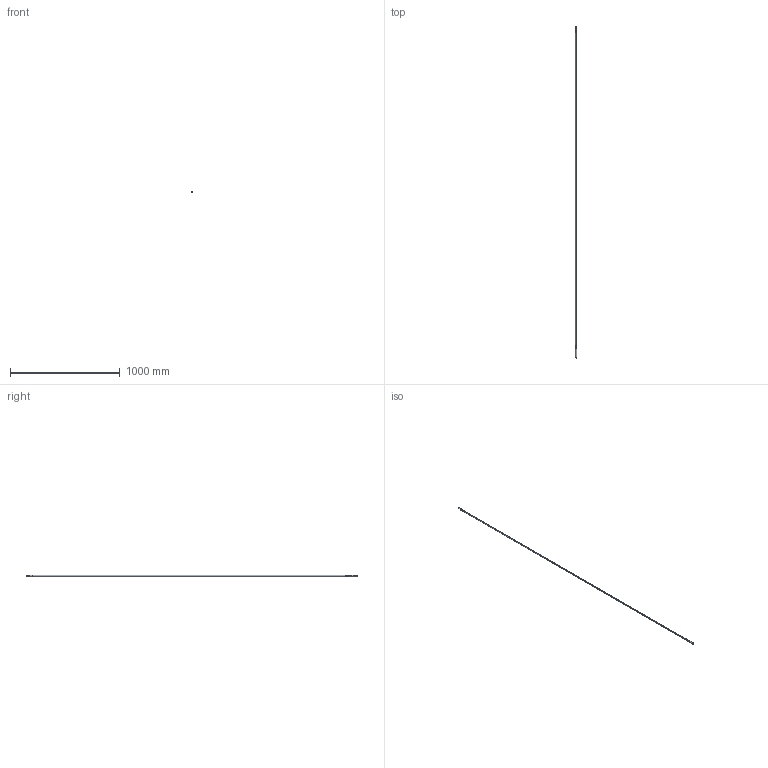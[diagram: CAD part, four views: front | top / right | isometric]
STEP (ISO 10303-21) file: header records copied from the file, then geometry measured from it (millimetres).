
FILE_DESCRIPTION (( 'STEP AP214' ), '1' );
FILE_NAME ('TPL-H-014.STEP', '2024-07-11T04:25:00', ( '' ), ( '' ), 'SwSTEP 2.0', 'SolidWorks 2023', '' );
FILE_SCHEMA (( 'AUTOMOTIVE_DESIGN' ));
Length unit declared in the file: millimetre
Products named in the file (5): Copy of LKC-576 Bolt adaptor - simplified^Hollow rod with bolt and adaptor; Copy of LKC-573 Bolt single flat 11.5mm dia 10.8mm AF - simplified^Hollow rod with bolt and adaptor; TPL-H-014; Copy of LKC-540 Transmission rod aluminium system TPLGen2^Hollow rod with bolt and adaptor_2885mm; Copy of LKC-532 Rod connector - simplified^Hollow rod with bolt and adaptor
Assembly tree (4 placements, depth 2):
  TPL-H-014
    Copy of LKC-532 Rod connector - simplified^Hollow rod with bolt and adaptor
    Copy of LKC-540 Transmission rod aluminium system TPLGen2^Hollow rod with bolt and adaptor_2885mm
    Copy of LKC-576 Bolt adaptor - simplified^Hollow rod with bolt and adaptor
    Copy of LKC-573 Bolt single flat 11.5mm dia 10.8mm AF - simplified^Hollow rod with bolt and adaptor
Bounding box: 11.75 x 3021 x 12 mm (x, y, z)
Volume: 154026.8 mm3; surface area: 193711.7 mm2
Topology: 4 solids, 4 shells, 98 faces, 237 edges, 141 vertices
Faces by surface type: cylinder 40, cone 30, plane 24, torus 2, sphere 2
Entity records: 3095 total; most frequent: CARTESIAN_POINT 695, DIRECTION 515, ORIENTED_EDGE 438, EDGE_CURVE 219, AXIS2_PLACEMENT_3D 207, VERTEX_POINT 139, EDGE_LOOP 110, CIRCLE 102
